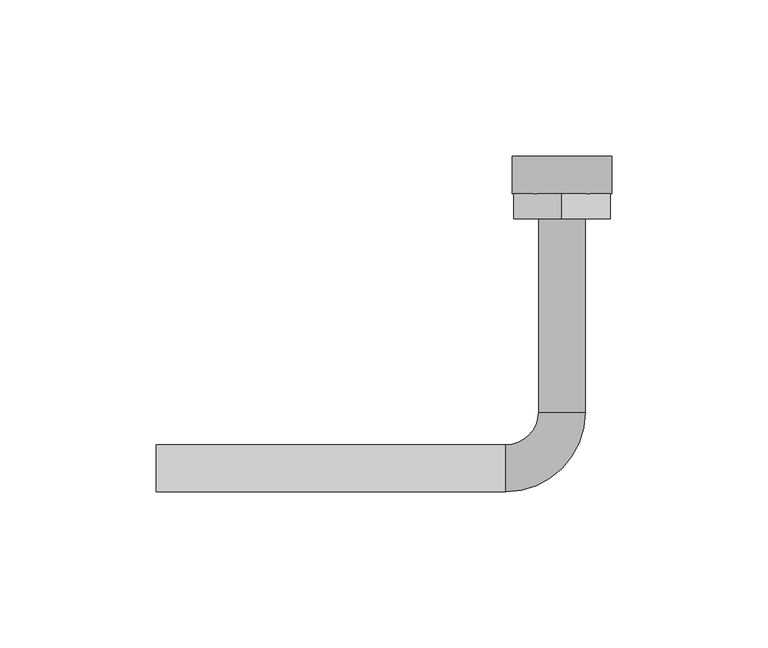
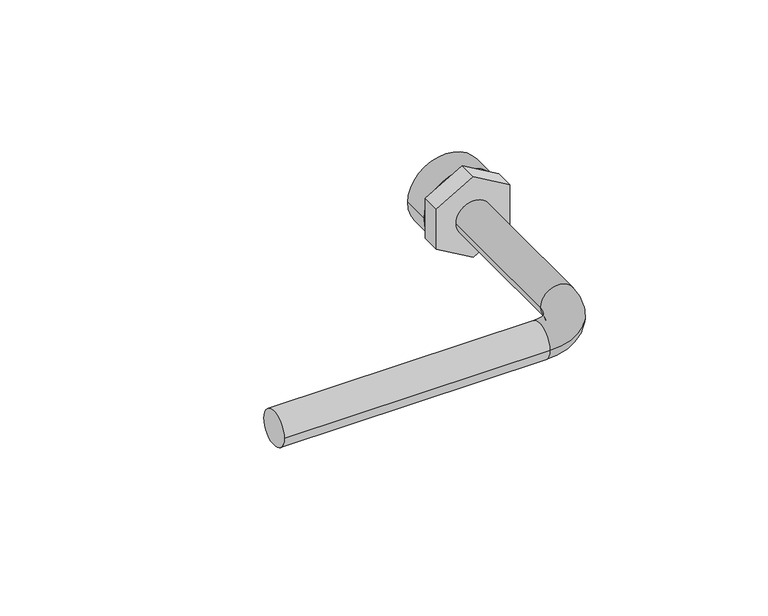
"""IFC4 building model written with IfcOpenShell, lengths in millimetres: pipe fitting geometry, NLRS_50_PIF_UN_Geberit radiatoraansluitbocht 90° met schroefaansluiting voor Euroconus_PRO_1079215 : DN12-12-G3/4'' / d15-15-G3/4'' - OD."""

from ifc_helpers import new_model, si_unit, point, frame, origin, place, context, project, spatial, polyline, circle_curve, ellipse_curve, trimmed, outline, extrude, source, transform, mapped, element, save
from ifc_brep_helpers import plane_surface, cylinder_surface, revolved_surface, advanced_brep


def pipe_fitting_bf6d9b78(model_context):
    return source(origin(), model_context, "Body", "SolidModel", [
        extrude(outline(polyline([(-8.9489292, -15.5), (-17.8978583, 0.0), (-8.9489292, 15.5), (8.9489292, 15.5), (17.8978583, 0.0), (8.9489292, -15.5), (-8.9489292, -15.5)])), frame((0.0, 80.0, 0.0), z_axis=(0.0, 1.0, 0.0), x_axis=(0.0, 0.0, 1.0)), (0.0, 0.0, 1.0), 8.0),
        advanced_brep(
        [(-16.0, 88.0, 0.0), (16.0, 88.0, 0.0), (0.0, 88.0, 0.0), (-16.0, 100.0, 0.0), (16.0, 100.0, 0.0), (0.0, 100.0, 0.0)],
        [
            (0, 1, circle_curve(frame((0.0, 88.0, 0.0), z_axis=(0.0, -1.0, 0.0), x_axis=(1.0, 0.0, 0.0)), 16.0)),
            (1, 2),
            (2, 0),
            (1, 0, circle_curve(frame((0.0, 88.0, 0.0), z_axis=(0.0, -1.0, 0.0), x_axis=(1.0, 0.0, 0.0)), 16.0)),
            (3, 4, circle_curve(frame((0.0, 100.0, 0.0), z_axis=(0.0, -1.0, 0.0), x_axis=(1.0, 0.0, 0.0)), 16.0)),
            (4, 1),
            (0, 3),
            (4, 3, circle_curve(frame((0.0, 100.0, 0.0), z_axis=(0.0, -1.0, 0.0), x_axis=(1.0, 0.0, 0.0)), 16.0)),
            (5, 4),
            (3, 5),
        ],
        [
            plane_surface(frame((0.0, 88.0, 0.0), z_axis=(0.0, -1.0, 0.0), x_axis=(1.0, 0.0, 0.0))),
            cylinder_surface(frame((0.0, -1912.0, 0.0), z_axis=(0.0, 1.0, 0.0), x_axis=(1.0, 0.0, 0.0)), 16.0),
            plane_surface(frame((0.0, 100.0, 0.0), z_axis=(0.0, 1.0, 0.0), x_axis=(1.0, 0.0, 0.0))),
        ],
        [
            (0, [[1, 2, 3]]),
            (0, [[4, -3, -2]]),
            (1, [[5, 6, -1, 7]]),
            (1, [[8, -7, -4, -6]]),
            (2, [[9, -5, 10]]),
            (2, [[-10, -8, -9]]),
        ],
    ),
        advanced_brep(
        [(-7.5, 100.0, 0.0), (7.5, 100.0, 0.0), (-7.5, 18.0, 0.0), (7.5, 18.0, 0.0), (-18.0, -7.5, 0.0), (-18.0, 7.5, 0.0), (-130.0, 7.5, 0.0), (-130.0, -7.5, 0.0)],
        [
            (0, 1, circle_curve(frame((0.0, 100.0, 0.0), z_axis=(0.0, 1.0, 0.0), x_axis=(1.0, 0.0, 0.0)), 7.5)),
            (1, 0, circle_curve(frame((0.0, 100.0, 0.0), z_axis=(0.0, 1.0, 0.0), x_axis=(1.0, 0.0, 0.0)), 7.5)),
            (0, 2),
            (2, 3, circle_curve(frame((0.0, 18.0, 0.0), z_axis=(0.0, 1.0, 0.0), x_axis=(1.0, 0.0, 0.0)), 7.5)),
            (3, 1),
            (3, 2, circle_curve(frame((0.0, 18.0, 0.0), z_axis=(0.0, 1.0, 0.0), x_axis=(1.0, 0.0, 0.0)), 7.5)),
            (4, 3, circle_curve(frame((-18.0, 18.0, 0.0), z_axis=(0.0, 0.0, 1.0), x_axis=(1.0, 0.0, 0.0)), 25.5)),
            (2, 5, circle_curve(frame((-18.0, 18.0, 0.0), z_axis=(0.0, 0.0, -1.0), x_axis=(1.0, 0.0, 0.0)), 10.5)),
            (5, 4, circle_curve(frame((-18.0, 0.0, 0.0), z_axis=(1.0, 0.0, 0.0), x_axis=(0.0, -1.0, 0.0)), 7.5)),
            (4, 5, circle_curve(frame((-18.0, 0.0, 0.0), z_axis=(1.0, 0.0, 0.0), x_axis=(0.0, -1.0, 0.0)), 7.5)),
            (6, 7, circle_curve(frame((-130.0, 0.0, 0.0), z_axis=(-1.0, 0.0, 0.0), x_axis=(0.0, -1.0, 0.0)), 7.5)),
            (7, 6, circle_curve(frame((-130.0, 0.0, 0.0), z_axis=(-1.0, 0.0, 0.0), x_axis=(0.0, -1.0, 0.0)), 7.5)),
            (5, 6),
            (7, 4),
        ],
        [
            plane_surface(frame((0.0, 100.0, 0.0), z_axis=(0.0, 1.0, 0.0), x_axis=(0.0, 0.0, 1.0))),
            cylinder_surface(frame((0.0, 100.0, 0.0), z_axis=(0.0, 1.0, 0.0), x_axis=(1.0, 0.0, 0.0)), 7.5),
            revolved_surface(trimmed(ellipse_curve(frame((0.0, 18.0, 0.0), z_axis=(0.0, 1.0, 0.0), x_axis=(1.0, 0.0, 0.0)), 7.5, 7.5), [point((-7.5, 18.0, 0.0))], [point((7.5, 18.0, 0.0))], True, "CARTESIAN"), (-18.0, 18.0, 0.0), (0.0, 0.0, -1.0)),
            revolved_surface(trimmed(ellipse_curve(frame((0.0, 18.0, 0.0), z_axis=(0.0, 1.0, 0.0), x_axis=(1.0, 0.0, 0.0)), 7.5, 7.5), [point((7.5, 18.0, 0.0))], [point((-7.5, 18.0, 0.0))], True, "CARTESIAN"), (-18.0, 18.0, 0.0), (0.0, 0.0, -1.0)),
            plane_surface(frame((-130.0, 0.0, 0.0), z_axis=(-1.0, 0.0, 0.0), x_axis=(0.0, 0.0, 1.0))),
            cylinder_surface(frame((-18.0, 0.0, 0.0), z_axis=(1.0, 0.0, 0.0), x_axis=(0.0, -1.0, 0.0)), 7.5),
        ],
        [
            (0, [[1, 2]]),
            (1, [[-1, 3, 4, 5]]),
            (1, [[-2, -5, 6, -3]]),
            (2, [[7, -4, 8, 9]]),
            (3, [[-8, -6, -7, 10]]),
            (4, [[11, 12]]),
            (5, [[-9, 13, -12, 14]]),
            (5, [[-10, -14, -11, -13]]),
        ],
    ),
    ])


if __name__ == "__main__":
    model = new_model("IFC4")
    model_context = context("Model", 3, world=origin())
    ifc_project = project(units=[si_unit("LENGTHUNIT", "METRE", prefix="MILLI")], contexts=[model_context])
    site = spatial("IfcSite", under=ifc_project)
    building = spatial("IfcBuilding", under=site)
    placement = place(None, origin())
    pipe_fitting_shape = pipe_fitting_bf6d9b78(model_context)
    element("IfcPipeFitting", 1, ObjectType="NLRS_50_PIF_UN_Geberit radiatoraansluitbocht 90° met schroefaansluiting voor Euroconus_PRO_1079215 : DN12-12-G3/4'' / d15-15-G3/4'' - OD", at=placement, inside=building, context=model_context, shape_type="MappedRepresentation", body=[
        mapped(pipe_fitting_shape, transform((0.0, 0.0, 0.0), x_axis=(1.0, 0.0, 0.0), y_axis=(0.0, 1.0, 0.0), z_axis=(0.0, 0.0, 1.0))),
    ])
    save(model, "model.ifc")
